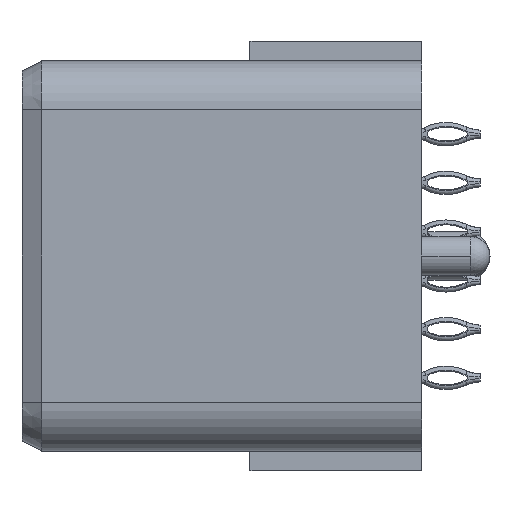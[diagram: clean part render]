
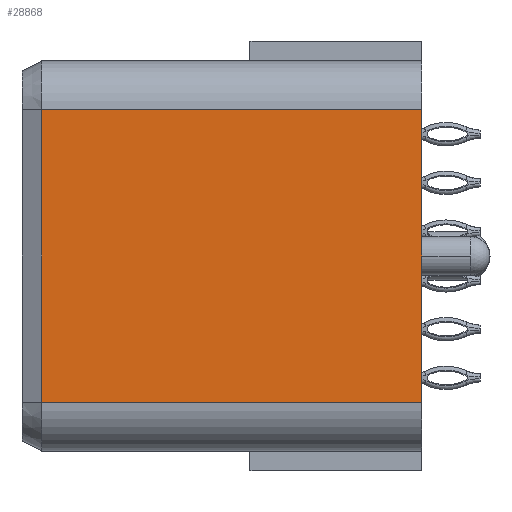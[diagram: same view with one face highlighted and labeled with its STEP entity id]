
A CAD part, left-side view. The second image highlights one B-rep face of the part: STEP entity #28868.
In plain terms, the highlighted planar face has unit normal (-1, 0, 0).
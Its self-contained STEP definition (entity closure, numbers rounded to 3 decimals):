
#28868=ADVANCED_FACE('',(#34699),#30719,.T.);
#30719=PLANE('',#102381);
#34699=FACE_OUTER_BOUND('',#39049,.T.);
#39049=EDGE_LOOP('',(#69053,#69054,#69055,#69056));
#43908=LINE('',#171790,#50057);
#43912=LINE('',#171808,#50061);
#43914=LINE('',#171811,#50063);
#43915=LINE('',#171812,#50064);
#50057=VECTOR('',#118954,1.);
#50061=VECTOR('',#118970,1.);
#50063=VECTOR('',#118974,1.);
#50064=VECTOR('',#118975,1.);
#69053=ORIENTED_EDGE('',*,*,#91087,.F.);
#69054=ORIENTED_EDGE('',*,*,#91077,.F.);
#69055=ORIENTED_EDGE('',*,*,#91088,.F.);
#69056=ORIENTED_EDGE('',*,*,#91085,.F.);
#80618=VERTEX_POINT('',#171788);
#80620=VERTEX_POINT('',#171791);
#80625=VERTEX_POINT('',#171802);
#80626=VERTEX_POINT('',#171806);
#91077=EDGE_CURVE('',#80618,#80620,#43908,.T.);
#91085=EDGE_CURVE('',#80626,#80625,#43912,.T.);
#91087=EDGE_CURVE('',#80620,#80626,#43914,.T.);
#91088=EDGE_CURVE('',#80625,#80618,#43915,.T.);
#102381=AXIS2_PLACEMENT_3D('',#171813,#118976,#118977);
#118954=DIRECTION('',(0.,-1.,0.));
#118970=DIRECTION('',(0.,1.,0.));
#118974=DIRECTION('',(0.,0.,-1.));
#118975=DIRECTION('',(0.,0.,1.));
#118976=DIRECTION('',(-1.,0.,0.));
#118977=DIRECTION('',(0.,0.,-1.));
#171788=CARTESIAN_POINT('',(-44.05,19.5,7.5));
#171790=CARTESIAN_POINT('',(-44.05,19.5,7.5));
#171791=CARTESIAN_POINT('',(-44.05,0.,7.5));
#171802=CARTESIAN_POINT('',(-44.05,19.5,-7.5));
#171806=CARTESIAN_POINT('',(-44.05,0.,-7.5));
#171808=CARTESIAN_POINT('',(-44.05,0.,-7.5));
#171811=CARTESIAN_POINT('',(-44.05,0.,7.5));
#171812=CARTESIAN_POINT('',(-44.05,19.5,-7.5));
#171813=CARTESIAN_POINT('',(-44.05,25.513,7.75));
